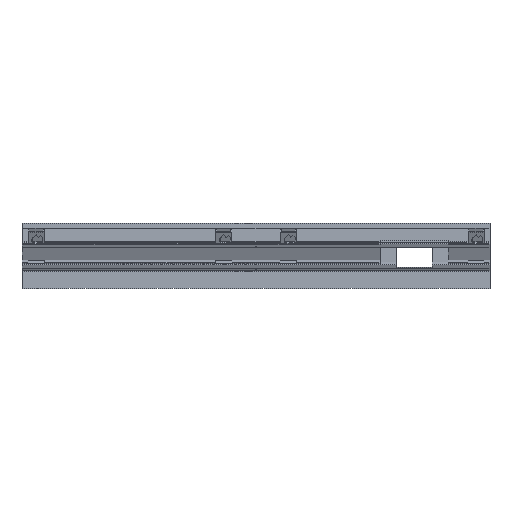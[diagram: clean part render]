
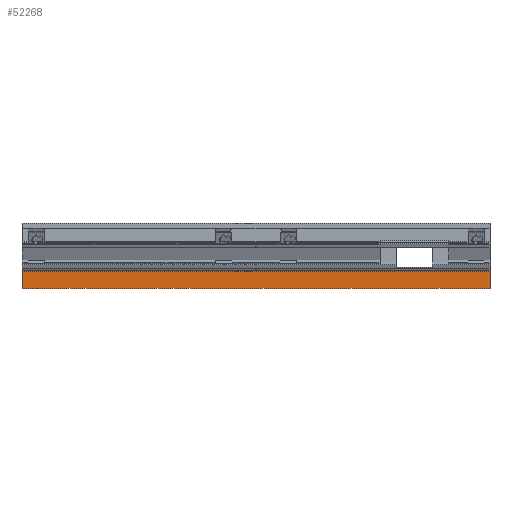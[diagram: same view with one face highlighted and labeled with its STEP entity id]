
A CAD part, front view. The second image highlights one B-rep face of the part: STEP entity #52268.
In plain terms, the highlighted planar face has unit normal (0, -1, 0).
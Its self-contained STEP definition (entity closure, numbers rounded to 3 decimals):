
#32 = PLANE('',#33);
#33 = AXIS2_PLACEMENT_3D('',#34,#35,#36);
#34 = CARTESIAN_POINT('',(-117.,101.,-1.));
#35 = DIRECTION('',(1.,0.,-0.));
#36 = DIRECTION('',(0.,0.,1.));
#779 = VERTEX_POINT('',#780);
#780 = CARTESIAN_POINT('',(-117.,158.5,8.693));
#794 = PLANE('',#795);
#795 = AXIS2_PLACEMENT_3D('',#796,#797,#798);
#796 = CARTESIAN_POINT('',(-128.,147.295,-9.852));
#797 = DIRECTION('',(0.,-0.856,0.517));
#798 = DIRECTION('',(0.,0.517,0.856));
#806 = EDGE_CURVE('',#779,#807,#809,.T.);
#807 = VERTEX_POINT('',#808);
#808 = CARTESIAN_POINT('',(-117.,158.5,0.));
#809 = SURFACE_CURVE('',#810,(#814,#821),.PCURVE_S1.);
#810 = LINE('',#811,#812);
#811 = CARTESIAN_POINT('',(-117.,158.5,-1.));
#812 = VECTOR('',#813,1.);
#813 = DIRECTION('',(0.,-0.,-1.));
#814 = PCURVE('',#32,#815);
#815 = DEFINITIONAL_REPRESENTATION('',(#816),#820);
#816 = LINE('',#817,#818);
#817 = CARTESIAN_POINT('',(0.,-57.5));
#818 = VECTOR('',#819,1.);
#819 = DIRECTION('',(-1.,0.));
#820 = ( GEOMETRIC_REPRESENTATION_CONTEXT(2) 
PARAMETRIC_REPRESENTATION_CONTEXT() REPRESENTATION_CONTEXT('2D SPACE',''
  ) );
#821 = PCURVE('',#822,#827);
#822 = PLANE('',#823);
#823 = AXIS2_PLACEMENT_3D('',#824,#825,#826);
#824 = CARTESIAN_POINT('',(168.,158.5,-1.));
#825 = DIRECTION('',(0.,-1.,0.));
#826 = DIRECTION('',(-1.,0.,0.));
#827 = DEFINITIONAL_REPRESENTATION('',(#828),#832);
#828 = LINE('',#829,#830);
#829 = CARTESIAN_POINT('',(285.,0.));
#830 = VECTOR('',#831,1.);
#831 = DIRECTION('',(0.,1.));
#832 = ( GEOMETRIC_REPRESENTATION_CONTEXT(2) 
PARAMETRIC_REPRESENTATION_CONTEXT() REPRESENTATION_CONTEXT('2D SPACE',''
  ) );
#850 = PLANE('',#851);
#851 = AXIS2_PLACEMENT_3D('',#852,#853,#854);
#852 = CARTESIAN_POINT('',(0.,-2.673,0.));
#853 = DIRECTION('',(0.,0.,1.));
#854 = DIRECTION('',(1.,0.,-0.));
#1044 = PLANE('',#1045);
#1045 = AXIS2_PLACEMENT_3D('',#1046,#1047,#1048);
#1046 = CARTESIAN_POINT('',(117.,101.,-1.));
#1047 = DIRECTION('',(1.,0.,-0.));
#1048 = DIRECTION('',(0.,0.,1.));
#1828 = VERTEX_POINT('',#1829);
#1829 = CARTESIAN_POINT('',(117.,158.5,8.693));
#1850 = EDGE_CURVE('',#1828,#1851,#1853,.T.);
#1851 = VERTEX_POINT('',#1852);
#1852 = CARTESIAN_POINT('',(117.,158.5,0.));
#1853 = SURFACE_CURVE('',#1854,(#1858,#1865),.PCURVE_S1.);
#1854 = LINE('',#1855,#1856);
#1855 = CARTESIAN_POINT('',(117.,158.5,-1.));
#1856 = VECTOR('',#1857,1.);
#1857 = DIRECTION('',(0.,-0.,-1.));
#1858 = PCURVE('',#1044,#1859);
#1859 = DEFINITIONAL_REPRESENTATION('',(#1860),#1864);
#1860 = LINE('',#1861,#1862);
#1861 = CARTESIAN_POINT('',(0.,-57.5));
#1862 = VECTOR('',#1863,1.);
#1863 = DIRECTION('',(-1.,0.));
#1864 = ( GEOMETRIC_REPRESENTATION_CONTEXT(2) 
PARAMETRIC_REPRESENTATION_CONTEXT() REPRESENTATION_CONTEXT('2D SPACE',''
  ) );
#1865 = PCURVE('',#822,#1866);
#1866 = DEFINITIONAL_REPRESENTATION('',(#1867),#1871);
#1867 = LINE('',#1868,#1869);
#1868 = CARTESIAN_POINT('',(51.,0.));
#1869 = VECTOR('',#1870,1.);
#1870 = DIRECTION('',(0.,1.));
#1871 = ( GEOMETRIC_REPRESENTATION_CONTEXT(2) 
PARAMETRIC_REPRESENTATION_CONTEXT() REPRESENTATION_CONTEXT('2D SPACE',''
  ) );
#52244 = EDGE_CURVE('',#807,#1851,#52245,.T.);
#52245 = SURFACE_CURVE('',#52246,(#52250,#52257),.PCURVE_S1.);
#52246 = LINE('',#52247,#52248);
#52247 = CARTESIAN_POINT('',(84.,158.5,0.));
#52248 = VECTOR('',#52249,1.);
#52249 = DIRECTION('',(1.,0.,-0.));
#52250 = PCURVE('',#850,#52251);
#52251 = DEFINITIONAL_REPRESENTATION('',(#52252),#52256);
#52252 = LINE('',#52253,#52254);
#52253 = CARTESIAN_POINT('',(84.,161.173));
#52254 = VECTOR('',#52255,1.);
#52255 = DIRECTION('',(1.,0.));
#52256 = ( GEOMETRIC_REPRESENTATION_CONTEXT(2) 
PARAMETRIC_REPRESENTATION_CONTEXT() REPRESENTATION_CONTEXT('2D SPACE',''
  ) );
#52257 = PCURVE('',#822,#52258);
#52258 = DEFINITIONAL_REPRESENTATION('',(#52259),#52263);
#52259 = LINE('',#52260,#52261);
#52260 = CARTESIAN_POINT('',(84.,-1.));
#52261 = VECTOR('',#52262,1.);
#52262 = DIRECTION('',(-1.,0.));
#52263 = ( GEOMETRIC_REPRESENTATION_CONTEXT(2) 
PARAMETRIC_REPRESENTATION_CONTEXT() REPRESENTATION_CONTEXT('2D SPACE',''
  ) );
#52268 = ADVANCED_FACE('',(#52269),#822,.T.);
#52269 = FACE_BOUND('',#52270,.T.);
#52270 = EDGE_LOOP('',(#52271,#52292,#52293,#52294));
#52271 = ORIENTED_EDGE('',*,*,#52272,.T.);
#52272 = EDGE_CURVE('',#1828,#779,#52273,.T.);
#52273 = SURFACE_CURVE('',#52274,(#52278,#52285),.PCURVE_S1.);
#52274 = LINE('',#52275,#52276);
#52275 = CARTESIAN_POINT('',(20.,158.5,8.693));
#52276 = VECTOR('',#52277,1.);
#52277 = DIRECTION('',(-1.,0.,0.));
#52278 = PCURVE('',#822,#52279);
#52279 = DEFINITIONAL_REPRESENTATION('',(#52280),#52284);
#52280 = LINE('',#52281,#52282);
#52281 = CARTESIAN_POINT('',(148.,-9.693));
#52282 = VECTOR('',#52283,1.);
#52283 = DIRECTION('',(1.,0.));
#52284 = ( GEOMETRIC_REPRESENTATION_CONTEXT(2) 
PARAMETRIC_REPRESENTATION_CONTEXT() REPRESENTATION_CONTEXT('2D SPACE',''
  ) );
#52285 = PCURVE('',#794,#52286);
#52286 = DEFINITIONAL_REPRESENTATION('',(#52287),#52291);
#52287 = LINE('',#52288,#52289);
#52288 = CARTESIAN_POINT('',(21.667,-148.));
#52289 = VECTOR('',#52290,1.);
#52290 = DIRECTION('',(0.,1.));
#52291 = ( GEOMETRIC_REPRESENTATION_CONTEXT(2) 
PARAMETRIC_REPRESENTATION_CONTEXT() REPRESENTATION_CONTEXT('2D SPACE',''
  ) );
#52292 = ORIENTED_EDGE('',*,*,#806,.T.);
#52293 = ORIENTED_EDGE('',*,*,#52244,.T.);
#52294 = ORIENTED_EDGE('',*,*,#1850,.F.);
